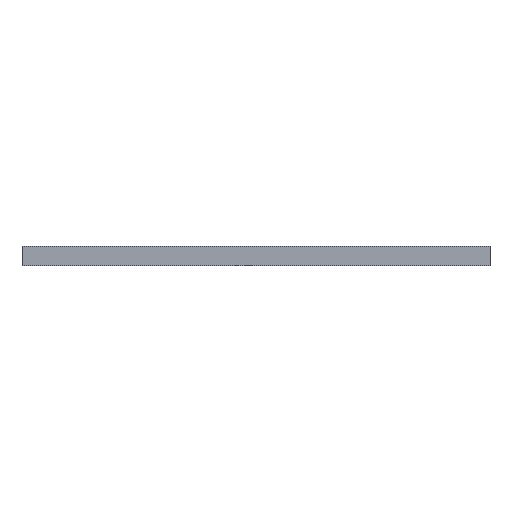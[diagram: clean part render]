
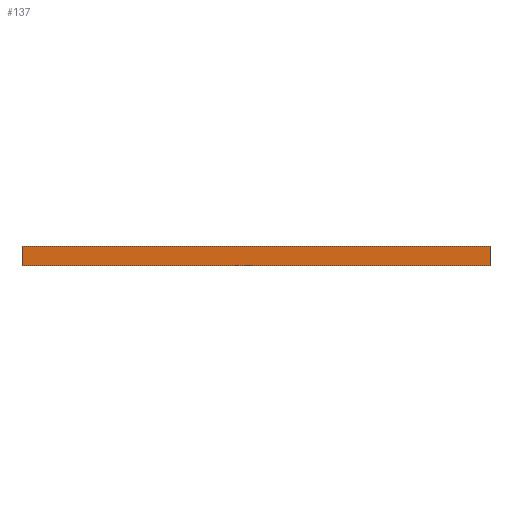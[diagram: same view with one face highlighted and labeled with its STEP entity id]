
A CAD part, front view. The second image highlights one B-rep face of the part: STEP entity #137.
In plain terms, the highlighted planar face has unit normal (0, -1, 0).
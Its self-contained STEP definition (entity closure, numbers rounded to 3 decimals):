
#21 = EDGE_CURVE('',#22,#24,#26,.T.);
#22 = VERTEX_POINT('',#23);
#23 = CARTESIAN_POINT('',(56.,-36.,-11.));
#24 = VERTEX_POINT('',#25);
#25 = CARTESIAN_POINT('',(56.,-36.,-7.));
#26 = SURFACE_CURVE('',#27,(#31,#43),.PCURVE_S1.);
#27 = LINE('',#28,#29);
#28 = CARTESIAN_POINT('',(56.,-36.,-11.));
#29 = VECTOR('',#30,1.);
#30 = DIRECTION('',(0.,0.,1.));
#31 = PCURVE('',#32,#37);
#32 = PLANE('',#33);
#33 = AXIS2_PLACEMENT_3D('',#34,#35,#36);
#34 = CARTESIAN_POINT('',(56.,-36.,-11.));
#35 = DIRECTION('',(-1.,-0.,0.));
#36 = DIRECTION('',(0.,0.,-1.));
#37 = DEFINITIONAL_REPRESENTATION('',(#38),#42);
#38 = LINE('',#39,#40);
#39 = CARTESIAN_POINT('',(-0.,-0.));
#40 = VECTOR('',#41,1.);
#41 = DIRECTION('',(-1.,-0.));
#42 = ( GEOMETRIC_REPRESENTATION_CONTEXT(2) 
PARAMETRIC_REPRESENTATION_CONTEXT() REPRESENTATION_CONTEXT('2D SPACE',''
  ) );
#43 = PCURVE('',#44,#49);
#44 = PLANE('',#45);
#45 = AXIS2_PLACEMENT_3D('',#46,#47,#48);
#46 = CARTESIAN_POINT('',(56.,-36.,-11.));
#47 = DIRECTION('',(-0.,1.,0.));
#48 = DIRECTION('',(0.,0.,-1.));
#49 = DEFINITIONAL_REPRESENTATION('',(#50),#54);
#50 = LINE('',#51,#52);
#51 = CARTESIAN_POINT('',(-0.,-0.));
#52 = VECTOR('',#53,1.);
#53 = DIRECTION('',(-1.,0.));
#54 = ( GEOMETRIC_REPRESENTATION_CONTEXT(2) 
PARAMETRIC_REPRESENTATION_CONTEXT() REPRESENTATION_CONTEXT('2D SPACE',''
  ) );
#72 = PLANE('',#73);
#73 = AXIS2_PLACEMENT_3D('',#74,#75,#76);
#74 = CARTESIAN_POINT('',(56.,-36.,-11.));
#75 = DIRECTION('',(-0.,-0.,1.));
#76 = DIRECTION('',(1.,0.,0.));
#126 = PLANE('',#127);
#127 = AXIS2_PLACEMENT_3D('',#128,#129,#130);
#128 = CARTESIAN_POINT('',(56.,-36.,-7.));
#129 = DIRECTION('',(-0.,-0.,1.));
#130 = DIRECTION('',(1.,0.,0.));
#137 = ADVANCED_FACE('',(#138),#44,.F.);
#138 = FACE_BOUND('',#139,.T.);
#139 = EDGE_LOOP('',(#140,#163,#164,#187));
#140 = ORIENTED_EDGE('',*,*,#141,.F.);
#141 = EDGE_CURVE('',#22,#142,#144,.T.);
#142 = VERTEX_POINT('',#143);
#143 = CARTESIAN_POINT('',(-38.,-36.,-11.));
#144 = SURFACE_CURVE('',#145,(#149,#156),.PCURVE_S1.);
#145 = LINE('',#146,#147);
#146 = CARTESIAN_POINT('',(56.,-36.,-11.));
#147 = VECTOR('',#148,1.);
#148 = DIRECTION('',(-1.,-0.,0.));
#149 = PCURVE('',#44,#150);
#150 = DEFINITIONAL_REPRESENTATION('',(#151),#155);
#151 = LINE('',#152,#153);
#152 = CARTESIAN_POINT('',(-0.,-0.));
#153 = VECTOR('',#154,1.);
#154 = DIRECTION('',(-0.,1.));
#155 = ( GEOMETRIC_REPRESENTATION_CONTEXT(2) 
PARAMETRIC_REPRESENTATION_CONTEXT() REPRESENTATION_CONTEXT('2D SPACE',''
  ) );
#156 = PCURVE('',#72,#157);
#157 = DEFINITIONAL_REPRESENTATION('',(#158),#162);
#158 = LINE('',#159,#160);
#159 = CARTESIAN_POINT('',(0.,-0.));
#160 = VECTOR('',#161,1.);
#161 = DIRECTION('',(-1.,0.));
#162 = ( GEOMETRIC_REPRESENTATION_CONTEXT(2) 
PARAMETRIC_REPRESENTATION_CONTEXT() REPRESENTATION_CONTEXT('2D SPACE',''
  ) );
#163 = ORIENTED_EDGE('',*,*,#21,.T.);
#164 = ORIENTED_EDGE('',*,*,#165,.T.);
#165 = EDGE_CURVE('',#24,#166,#168,.T.);
#166 = VERTEX_POINT('',#167);
#167 = CARTESIAN_POINT('',(-38.,-36.,-7.));
#168 = SURFACE_CURVE('',#169,(#173,#180),.PCURVE_S1.);
#169 = LINE('',#170,#171);
#170 = CARTESIAN_POINT('',(56.,-36.,-7.));
#171 = VECTOR('',#172,1.);
#172 = DIRECTION('',(-1.,-0.,0.));
#173 = PCURVE('',#44,#174);
#174 = DEFINITIONAL_REPRESENTATION('',(#175),#179);
#175 = LINE('',#176,#177);
#176 = CARTESIAN_POINT('',(-4.,-0.));
#177 = VECTOR('',#178,1.);
#178 = DIRECTION('',(-0.,1.));
#179 = ( GEOMETRIC_REPRESENTATION_CONTEXT(2) 
PARAMETRIC_REPRESENTATION_CONTEXT() REPRESENTATION_CONTEXT('2D SPACE',''
  ) );
#180 = PCURVE('',#126,#181);
#181 = DEFINITIONAL_REPRESENTATION('',(#182),#186);
#182 = LINE('',#183,#184);
#183 = CARTESIAN_POINT('',(0.,-0.));
#184 = VECTOR('',#185,1.);
#185 = DIRECTION('',(-1.,0.));
#186 = ( GEOMETRIC_REPRESENTATION_CONTEXT(2) 
PARAMETRIC_REPRESENTATION_CONTEXT() REPRESENTATION_CONTEXT('2D SPACE',''
  ) );
#187 = ORIENTED_EDGE('',*,*,#188,.F.);
#188 = EDGE_CURVE('',#142,#166,#189,.T.);
#189 = SURFACE_CURVE('',#190,(#194,#201),.PCURVE_S1.);
#190 = LINE('',#191,#192);
#191 = CARTESIAN_POINT('',(-38.,-36.,-11.));
#192 = VECTOR('',#193,1.);
#193 = DIRECTION('',(0.,0.,1.));
#194 = PCURVE('',#44,#195);
#195 = DEFINITIONAL_REPRESENTATION('',(#196),#200);
#196 = LINE('',#197,#198);
#197 = CARTESIAN_POINT('',(-0.,94.));
#198 = VECTOR('',#199,1.);
#199 = DIRECTION('',(-1.,0.));
#200 = ( GEOMETRIC_REPRESENTATION_CONTEXT(2) 
PARAMETRIC_REPRESENTATION_CONTEXT() REPRESENTATION_CONTEXT('2D SPACE',''
  ) );
#201 = PCURVE('',#202,#207);
#202 = PLANE('',#203);
#203 = AXIS2_PLACEMENT_3D('',#204,#205,#206);
#204 = CARTESIAN_POINT('',(-38.,-36.,-11.));
#205 = DIRECTION('',(-1.,-0.,0.));
#206 = DIRECTION('',(0.,0.,-1.));
#207 = DEFINITIONAL_REPRESENTATION('',(#208),#212);
#208 = LINE('',#209,#210);
#209 = CARTESIAN_POINT('',(-0.,-0.));
#210 = VECTOR('',#211,1.);
#211 = DIRECTION('',(-1.,-0.));
#212 = ( GEOMETRIC_REPRESENTATION_CONTEXT(2) 
PARAMETRIC_REPRESENTATION_CONTEXT() REPRESENTATION_CONTEXT('2D SPACE',''
  ) );
